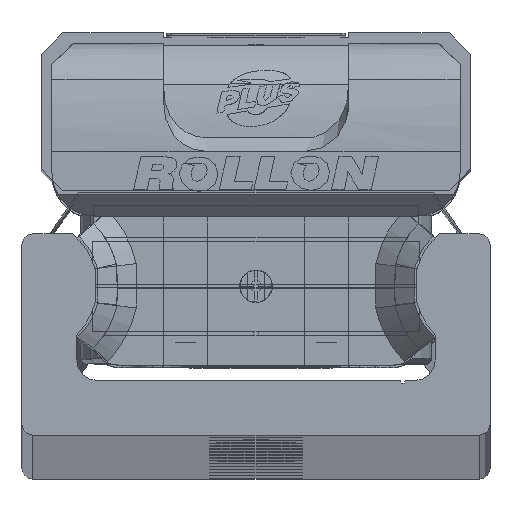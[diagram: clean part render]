
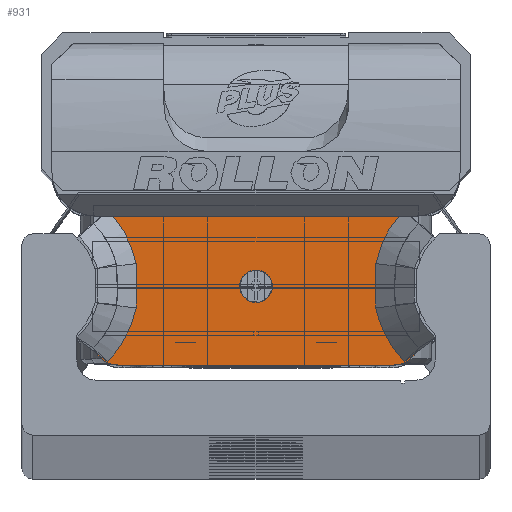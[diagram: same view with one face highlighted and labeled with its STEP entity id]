
A CAD part, top view. The second image highlights one B-rep face of the part: STEP entity #931.
In plain terms, the highlighted planar face has unit normal (0, 0, 1) as drawn and (0, 0, -1) by its records, which use the part's own axes.
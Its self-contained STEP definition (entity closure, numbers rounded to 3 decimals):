
#931 = ADVANCED_FACE( '', ( #2438, #2439 ), #2440, .F. );
#2438 = FACE_BOUND( '', #4822, .T. );
#2439 = FACE_OUTER_BOUND( '', #4823, .T. );
#2440 = PLANE( '', #4824 );
#4822 = EDGE_LOOP( '', ( #7573 ) );
#4823 = EDGE_LOOP( '', ( #7574, #7575, #7576, #7577, #7578, #7579, #7580, #7581, #7582, #7583, #7584, #7585 ) );
#4824 = AXIS2_PLACEMENT_3D( '', #7586, #7587, #7588 );
#7573 = ORIENTED_EDGE( '', *, *, #13401, .T. );
#7574 = ORIENTED_EDGE( '', *, *, #13172, .T. );
#7575 = ORIENTED_EDGE( '', *, *, #13402, .F. );
#7576 = ORIENTED_EDGE( '', *, *, #13403, .T. );
#7577 = ORIENTED_EDGE( '', *, *, #13404, .F. );
#7578 = ORIENTED_EDGE( '', *, *, #13405, .T. );
#7579 = ORIENTED_EDGE( '', *, *, #13406, .T. );
#7580 = ORIENTED_EDGE( '', *, *, #13407, .T. );
#7581 = ORIENTED_EDGE( '', *, *, #13408, .T. );
#7582 = ORIENTED_EDGE( '', *, *, #13409, .T. );
#7583 = ORIENTED_EDGE( '', *, *, #13410, .T. );
#7584 = ORIENTED_EDGE( '', *, *, #13411, .T. );
#7585 = ORIENTED_EDGE( '', *, *, #13412, .T. );
#7586 = CARTESIAN_POINT( '', ( 14.9, 7.35, -13.25 ) );
#7587 = DIRECTION( '', ( 0., 0., 1. ) );
#7588 = DIRECTION( '', ( 1., 0., 0. ) );
#13172 = EDGE_CURVE( '', #15512, #15510, #15513, .T. );
#13401 = EDGE_CURVE( '', #15923, #15923, #15924, .T. );
#13402 = EDGE_CURVE( '', #15925, #15510, #15926, .T. );
#13403 = EDGE_CURVE( '', #15925, #15927, #15928, .T. );
#13404 = EDGE_CURVE( '', #15929, #15927, #15930, .T. );
#13405 = EDGE_CURVE( '', #15929, #15931, #15932, .T. );
#13406 = EDGE_CURVE( '', #15931, #15933, #15934, .T. );
#13407 = EDGE_CURVE( '', #15933, #15935, #15936, .T. );
#13408 = EDGE_CURVE( '', #15935, #15937, #15938, .T. );
#13409 = EDGE_CURVE( '', #15937, #15939, #15940, .T. );
#13410 = EDGE_CURVE( '', #15939, #15941, #15942, .T. );
#13411 = EDGE_CURVE( '', #15941, #15943, #15944, .T. );
#13412 = EDGE_CURVE( '', #15943, #15512, #15945, .T. );
#15510 = VERTEX_POINT( '', #19004 );
#15512 = VERTEX_POINT( '', #19007 );
#15513 = B_SPLINE_CURVE_WITH_KNOTS( '', 1, ( #19008, #19009 ), .UNSPECIFIED., .F., .F., ( 2, 2 ), ( 0., 1. ), .UNSPECIFIED. );
#15923 = VERTEX_POINT( '', #19580 );
#15924 = CIRCLE( '', #19581, 1.5 );
#15925 = VERTEX_POINT( '', #19582 );
#15926 = CIRCLE( '', #19583, 2.5 );
#15927 = VERTEX_POINT( '', #19584 );
#15928 = LINE( '', #19585, #19586 );
#15929 = VERTEX_POINT( '', #19587 );
#15930 = CIRCLE( '', #19588, 2.5 );
#15931 = VERTEX_POINT( '', #19589 );
#15932 = B_SPLINE_CURVE_WITH_KNOTS( '', 1, ( #19590, #19591 ), .UNSPECIFIED., .F., .F., ( 2, 2 ), ( 0., 1. ), .UNSPECIFIED. );
#15933 = VERTEX_POINT( '', #19592 );
#15934 = B_SPLINE_CURVE_WITH_KNOTS( '', 2, ( #19593, #19594, #19595, #19596, #19597 ), .UNSPECIFIED., .F., .F., ( 3, 2, 3 ), ( 0., 0.5, 1. ), .UNSPECIFIED. );
#15935 = VERTEX_POINT( '', #19598 );
#15936 = B_SPLINE_CURVE_WITH_KNOTS( '', 2, ( #19599, #19600, #19601 ), .UNSPECIFIED., .F., .F., ( 3, 3 ), ( 0., 1. ), .UNSPECIFIED. );
#15937 = VERTEX_POINT( '', #19602 );
#15938 = B_SPLINE_CURVE_WITH_KNOTS( '', 2, ( #19603, #19604, #19605, #19606, #19607 ), .UNSPECIFIED., .F., .F., ( 3, 2, 3 ), ( 0., 0.5, 0.868 ), .UNSPECIFIED. );
#15939 = VERTEX_POINT( '', #19608 );
#15940 = LINE( '', #19609, #19610 );
#15941 = VERTEX_POINT( '', #19611 );
#15942 = B_SPLINE_CURVE_WITH_KNOTS( '', 2, ( #19612, #19613, #19614, #19615, #19616 ), .UNSPECIFIED., .F., .F., ( 3, 2, 3 ), ( 0.133, 0.5, 1. ), .UNSPECIFIED. );
#15943 = VERTEX_POINT( '', #19617 );
#15944 = B_SPLINE_CURVE_WITH_KNOTS( '', 2, ( #19618, #19619, #19620 ), .UNSPECIFIED., .F., .F., ( 3, 3 ), ( 0., 1. ), .UNSPECIFIED. );
#15945 = B_SPLINE_CURVE_WITH_KNOTS( '', 2, ( #19621, #19622, #19623, #19624, #19625 ), .UNSPECIFIED., .F., .F., ( 3, 2, 3 ), ( 0., 0.5, 1. ), .UNSPECIFIED. );
#19004 = CARTESIAN_POINT( '', ( 14.906, -5.717, -13.25 ) );
#19007 = CARTESIAN_POINT( '', ( 13.628, -6.965, -13.25 ) );
#19008 = CARTESIAN_POINT( '', ( 13.628, -6.965, -13.25 ) );
#19009 = CARTESIAN_POINT( '', ( 14.9, -5.728, -13.25 ) );
#19580 = CARTESIAN_POINT( '', ( 1.5, -0.05, -13.25 ) );
#19581 = AXIS2_PLACEMENT_3D( '', #24097, #24098, #24099 );
#19582 = CARTESIAN_POINT( '', ( 12.58, -7.3, -13.25 ) );
#19583 = AXIS2_PLACEMENT_3D( '', #24100, #24101, #24102 );
#19584 = CARTESIAN_POINT( '', ( -12.58, -7.3, -13.25 ) );
#19585 = CARTESIAN_POINT( '', ( 12.58, -7.3, -13.25 ) );
#19586 = VECTOR( '', #24103, 1000. );
#19587 = CARTESIAN_POINT( '', ( -14.904, -5.718, -13.25 ) );
#19588 = AXIS2_PLACEMENT_3D( '', #24104, #24105, #24106 );
#19589 = CARTESIAN_POINT( '', ( -13.628, -6.965, -13.25 ) );
#19590 = CARTESIAN_POINT( '', ( -14.915, -5.713, -13.25 ) );
#19591 = CARTESIAN_POINT( '', ( -13.628, -6.965, -13.25 ) );
#19592 = CARTESIAN_POINT( '', ( -11.012, -2.045, -13.25 ) );
#19593 = CARTESIAN_POINT( '', ( -13.628, -6.965, -13.25 ) );
#19594 = CARTESIAN_POINT( '', ( -12.638, -5.946, -13.25 ) );
#19595 = CARTESIAN_POINT( '', ( -11.97, -4.691, -13.25 ) );
#19596 = CARTESIAN_POINT( '', ( -11.303, -3.437, -13.25 ) );
#19597 = CARTESIAN_POINT( '', ( -11.012, -2.045, -13.25 ) );
#19598 = CARTESIAN_POINT( '', ( -11.012, 2.045, -13.25 ) );
#19599 = CARTESIAN_POINT( '', ( -11.012, -2.045, -13.25 ) );
#19600 = CARTESIAN_POINT( '', ( -10.888, 0., -13.25 ) );
#19601 = CARTESIAN_POINT( '', ( -11.012, 2.045, -13.25 ) );
#19602 = CARTESIAN_POINT( '', ( -13.119, 6.4, -13.25 ) );
#19603 = CARTESIAN_POINT( '', ( -11.012, 2.045, -13.25 ) );
#19604 = CARTESIAN_POINT( '', ( -11.302, 3.432, -13.25 ) );
#19605 = CARTESIAN_POINT( '', ( -11.967, 4.685, -13.25 ) );
#19606 = CARTESIAN_POINT( '', ( -12.456, 5.606, -13.25 ) );
#19607 = CARTESIAN_POINT( '', ( -13.119, 6.4, -13.25 ) );
#19608 = CARTESIAN_POINT( '', ( 13.12, 6.4, -13.25 ) );
#19609 = CARTESIAN_POINT( '', ( 14.9, 6.4, -13.25 ) );
#19610 = VECTOR( '', #24107, 1000. );
#19611 = CARTESIAN_POINT( '', ( 11.012, 2.045, -13.25 ) );
#19612 = CARTESIAN_POINT( '', ( 13.119, 6.4, -13.25 ) );
#19613 = CARTESIAN_POINT( '', ( 12.459, 5.608, -13.25 ) );
#19614 = CARTESIAN_POINT( '', ( 11.968, 4.684, -13.25 ) );
#19615 = CARTESIAN_POINT( '', ( 11.301, 3.427, -13.25 ) );
#19616 = CARTESIAN_POINT( '', ( 11.012, 2.045, -13.25 ) );
#19617 = CARTESIAN_POINT( '', ( 11.012, -2.045, -13.25 ) );
#19618 = CARTESIAN_POINT( '', ( 11.012, 2.045, -13.25 ) );
#19619 = CARTESIAN_POINT( '', ( 10.888, 0., -13.25 ) );
#19620 = CARTESIAN_POINT( '', ( 11.012, -2.045, -13.25 ) );
#19621 = CARTESIAN_POINT( '', ( 11.012, -2.045, -13.25 ) );
#19622 = CARTESIAN_POINT( '', ( 11.301, -3.43, -13.25 ) );
#19623 = CARTESIAN_POINT( '', ( 11.972, -4.69, -13.25 ) );
#19624 = CARTESIAN_POINT( '', ( 12.642, -5.95, -13.25 ) );
#19625 = CARTESIAN_POINT( '', ( 13.628, -6.965, -13.25 ) );
#24097 = CARTESIAN_POINT( '', ( 0., -0.05, -13.25 ) );
#24098 = DIRECTION( '', ( 0., 0., 1. ) );
#24099 = DIRECTION( '', ( 1., 0., 0. ) );
#24100 = CARTESIAN_POINT( '', ( 12.58, -4.8, -13.25 ) );
#24101 = DIRECTION( '', ( 0., 0., 1. ) );
#24102 = DIRECTION( '', ( 1., 0., 0. ) );
#24103 = DIRECTION( '', ( -1., 0., 0. ) );
#24104 = CARTESIAN_POINT( '', ( -12.58, -4.8, -13.25 ) );
#24105 = DIRECTION( '', ( 0., 0., 1. ) );
#24106 = DIRECTION( '', ( 1., 0., 0. ) );
#24107 = DIRECTION( '', ( 1., 0., 0. ) );
